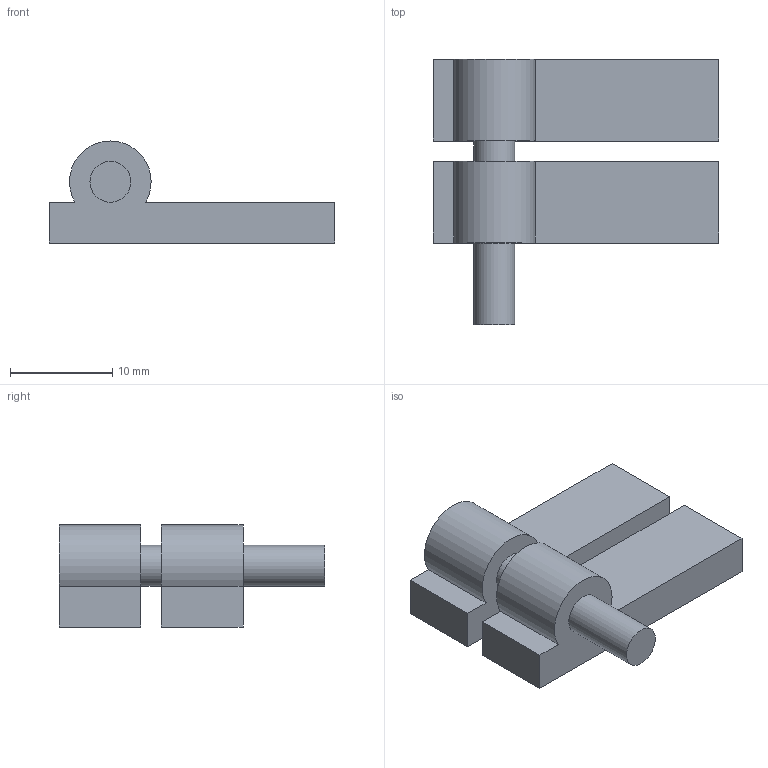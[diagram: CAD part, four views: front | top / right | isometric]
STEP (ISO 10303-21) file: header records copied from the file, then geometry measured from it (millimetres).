
FILE_DESCRIPTION(('Open CASCADE Model'),'2;1');
FILE_NAME('Open CASCADE Shape Model','2026-08-09T12:56:09',('Author'),( 'Open CASCADE'),'Open CASCADE STEP processor 7.9','Open CASCADE 7.9' ,'Unknown');
FILE_SCHEMA(('AUTOMOTIVE_DESIGN { 1 0 10303 214 1 1 1 1 }'));
Length unit declared in the file: millimetre
Products named in the file (4): grip_clip_step3_hinge; hinge_left; hinge_right; hinge_pin
Assembly tree (3 placements, depth 2):
  grip_clip_step3_hinge
    hinge_left
    hinge_right
    hinge_pin
Bounding box: 28 x 26 x 10 mm (x, y, z)
Volume: 2539.5 mm3; surface area: 2268.5 mm2
Topology: 3 solids, 3 shells, 24 faces, 51 edges, 33 vertices
Faces by surface type: plane 16, cylinder 8
Full cylindrical faces by diameter (mm): 4 x6
Entity records: 1385 total; most frequent: CARTESIAN_POINT 240, DIRECTION 216, LINE 128, VECTOR 128, ORIENTED_EDGE 102, PCURVE 102, DEFINITIONAL_REPRESENTATION 102, EDGE_CURVE 51
